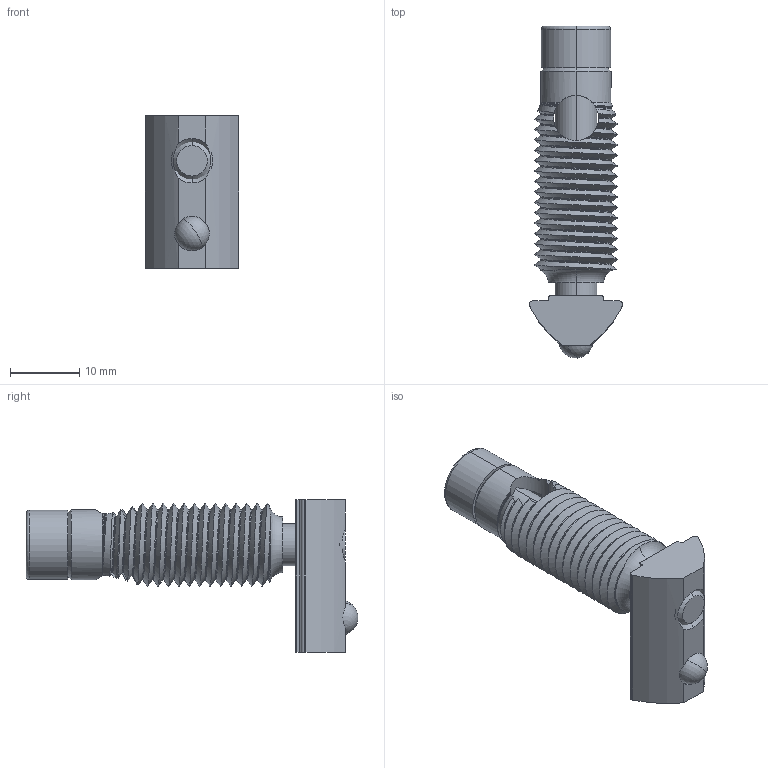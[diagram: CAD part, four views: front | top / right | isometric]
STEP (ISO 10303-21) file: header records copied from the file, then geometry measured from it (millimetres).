
FILE_DESCRIPTION (( 'STEP AP203' ), '1' );
FILE_NAME ('0108GFS4200.STEP', '2024-09-03T11:58:33', ( 'Windows-Benutzer' ), ( '' ), 'SwSTEP 2.0', 'SolidWorks 2024', '' );
FILE_SCHEMA (( 'CONFIG_CONTROL_DESIGN' ));
Length unit declared in the file: millimetre
Products named in the file (1): 0108GFS4200
Bounding box: 13.5 x 47.79 x 22 mm (x, y, z)
Volume: 4469.8 mm3; surface area: 4452.3 mm2
Topology: 4 solids, 4 shells, 171 faces, 464 edges, 297 vertices
Faces by surface type: plane 59, cylinder 57, bspline 31, cone 18, torus 4, sphere 2
Entity records: 19132 total; most frequent: CARTESIAN_POINT 15268, ORIENTED_EDGE 914, DIRECTION 617, EDGE_CURVE 457, VERTEX_POINT 294, AXIS2_PLACEMENT_3D 223, B_SPLINE_CURVE_WITH_KNOTS 179, EDGE_LOOP 179
